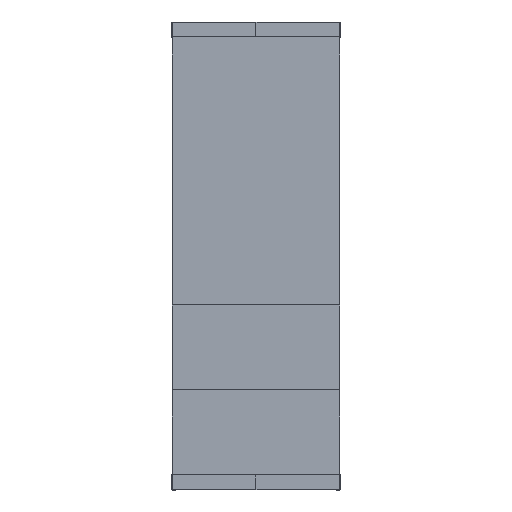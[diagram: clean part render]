
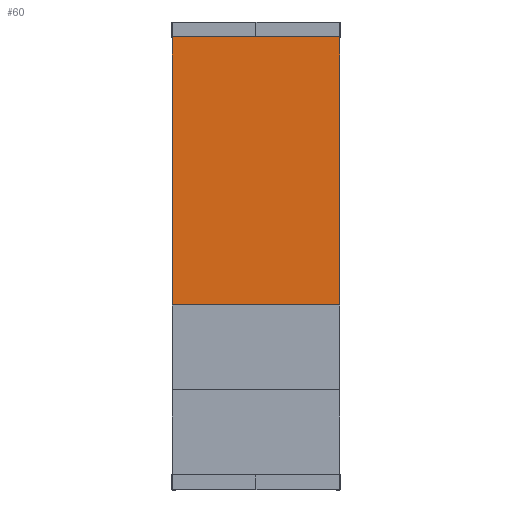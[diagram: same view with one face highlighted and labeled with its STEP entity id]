
A CAD part, top view. The second image highlights one B-rep face of the part: STEP entity #60.
In plain terms, the highlighted planar face has unit normal (0, 0, 1).
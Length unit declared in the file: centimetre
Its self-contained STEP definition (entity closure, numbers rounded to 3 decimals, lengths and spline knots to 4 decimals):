
#60=ADVANCED_FACE($,(#226),#1956,.T.);
#226=FACE_OUTER_BOUND($,#392,.T.);
#392=EDGE_LOOP($,(#604,#605,#606,#607));
#604=ORIENTED_EDGE($,*,*,#1336,.F.);
#605=ORIENTED_EDGE($,*,*,#1335,.F.);
#606=ORIENTED_EDGE($,*,*,#1334,.F.);
#607=ORIENTED_EDGE($,*,*,#1333,.F.);
#1333=EDGE_CURVE($,#1708,#1709,#2129,.T.);
#1334=EDGE_CURVE($,#1709,#1710,#2130,.T.);
#1335=EDGE_CURVE($,#1710,#1711,#2131,.T.);
#1336=EDGE_CURVE($,#1711,#1708,#2132,.T.);
#1708=VERTEX_POINT($,#2997);
#1709=VERTEX_POINT($,#2998);
#1710=VERTEX_POINT($,#2999);
#1711=VERTEX_POINT($,#3000);
#1956=PLANE($,#2590);
#2129=B_SPLINE_CURVE_WITH_KNOTS($,1,(#2971,#2972),.UNSPECIFIED.,.F.,.F.,
(2,2),(0.,126.),.UNSPECIFIED.);
#2130=B_SPLINE_CURVE_WITH_KNOTS($,1,(#2973,#2974),.UNSPECIFIED.,.F.,.F.,
(2,2),(0.,78.9),.UNSPECIFIED.);
#2131=B_SPLINE_CURVE_WITH_KNOTS($,1,(#2975,#2976),.UNSPECIFIED.,.F.,.F.,
(2,2),(0.,126.),.UNSPECIFIED.);
#2132=B_SPLINE_CURVE_WITH_KNOTS($,1,(#2977,#2978),.UNSPECIFIED.,.F.,.F.,
(2,2),(0.,78.9),.UNSPECIFIED.);
#2590=AXIS2_PLACEMENT_3D($,#2992,#2759,$);
#2759=DIRECTION($,(0.,0.,1.));
#2971=CARTESIAN_POINT($,(89.55,-456.,74.51));
#2972=CARTESIAN_POINT($,(89.55,-330.,74.51));
#2973=CARTESIAN_POINT($,(89.55,-330.,74.51));
#2974=CARTESIAN_POINT($,(168.45,-330.,74.51));
#2975=CARTESIAN_POINT($,(168.45,-330.,74.51));
#2976=CARTESIAN_POINT($,(168.45,-456.,74.51));
#2977=CARTESIAN_POINT($,(168.45,-456.,74.51));
#2978=CARTESIAN_POINT($,(89.55,-456.,74.51));
#2992=CARTESIAN_POINT($,(89.55,-456.,74.51));
#2997=CARTESIAN_POINT($,(89.55,-456.,74.51));
#2998=CARTESIAN_POINT($,(89.55,-330.,74.51));
#2999=CARTESIAN_POINT($,(168.45,-330.,74.51));
#3000=CARTESIAN_POINT($,(168.45,-456.,74.51));
